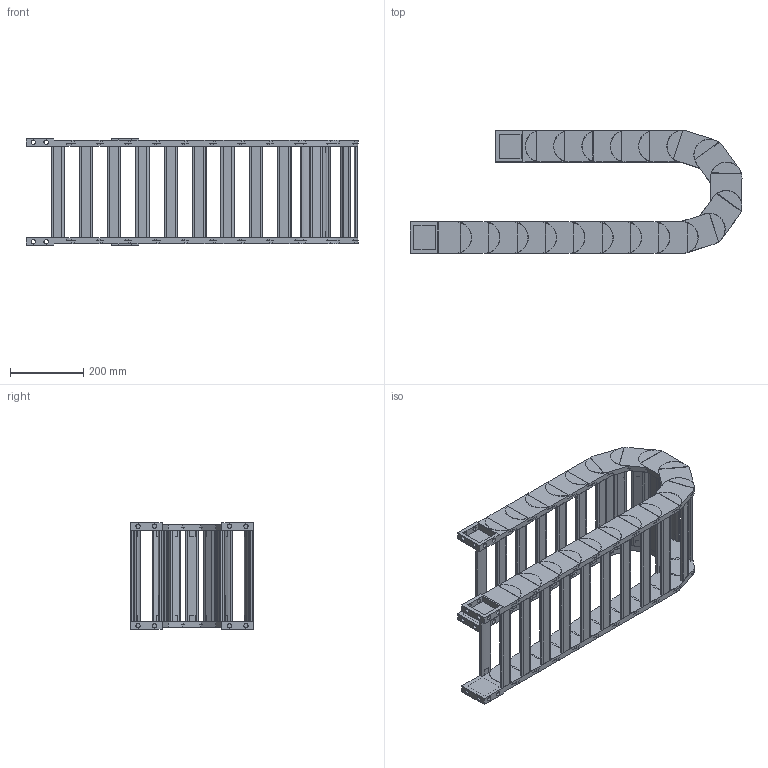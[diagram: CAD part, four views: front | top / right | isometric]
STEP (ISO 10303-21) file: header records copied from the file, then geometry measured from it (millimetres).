
FILE_DESCRIPTION((''),'2;1');
FILE_NAME('HD65-R125-ZPT_ASM','2022-06-18T16:40:04',('admin'),(''),'CREO PARAMETRIC BY PTC INC, 2021164','CREO PARAMETRIC BY PTC INC, 2021164','');
FILE_SCHEMA(('CONFIG_CONTROL_DESIGN','GEOMETRIC_VALIDATION_PROPERTIES_MIM'));
Length unit declared in the file: millimetre
Products named in the file (6): HD65; 65-50HDQSYP; HD65_ASM; H65-T1; H65-T2; HD65-R125-ZPT_ASM
Assembly tree (24 placements, depth 3):
  HD65-R125-ZPT_ASM
    HD65_ASM  x18
      HD65
      65-50HDQSYP
    H65-T1
    H65-T2
    65-50HDQSYP  x2
Bounding box: 908.33 x 335.99 x 290.7 mm (x, y, z)
Volume: 7458625.3 mm3; surface area: 2206808.2 mm2
Topology: 80 solids, 80 shells, 1484 faces, 3908 edges, 2668 vertices
Faces by surface type: plane 1136, cylinder 348
Entity records: 8872 total; most frequent: CARTESIAN_POINT 1324, DIRECTION 1292, ORIENTED_EDGE 1212, EDGE_CURVE 606, AXIS2_PLACEMENT_3D 434, VECTOR 424, LINE 424, VERTEX_POINT 410
